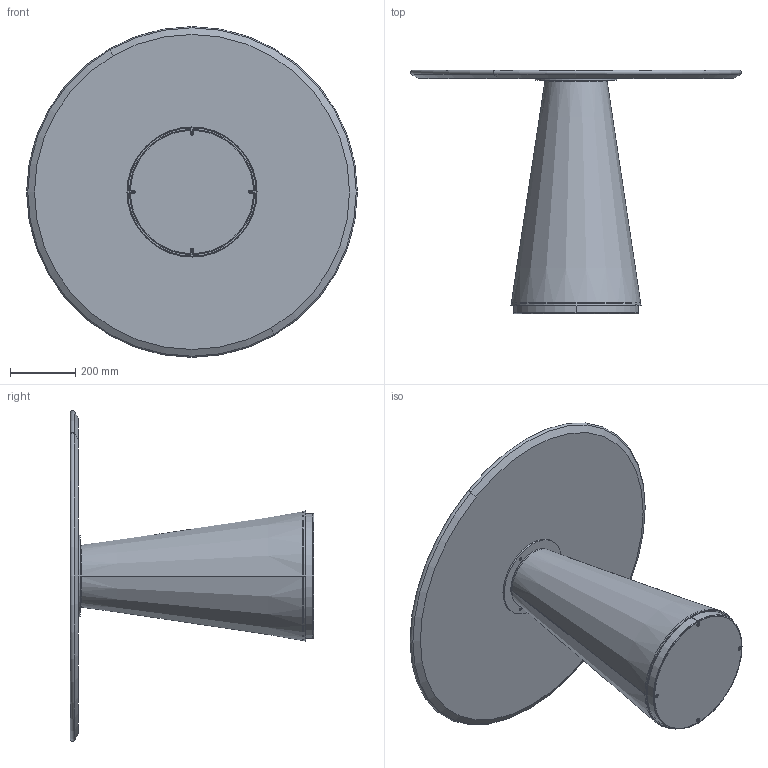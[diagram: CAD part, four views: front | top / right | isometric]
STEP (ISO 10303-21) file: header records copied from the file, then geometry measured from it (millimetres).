
FILE_DESCRIPTION (( 'STEP AP203' ), '1' );
FILE_NAME ('TE30B.STEP', '2024-08-08T07:48:49', ( '' ), ( '' ), 'SwSTEP 2.0', 'SolidWorks 2022', '' );
FILE_SCHEMA (( 'CONFIG_CONTROL_DESIGN' ));
Length unit declared in the file: millimetre
Products named in the file (10): Assieme BASE TED; TED000000BAS_01-00-TED PIASTRA; TE30B; M6xXXmm_HEX_M6x20mm HEX; TED000000PIA-00-TED PIASTRA SOPRA; BOMB0001-00-PIANO LEGNO CON INCASSO Ø100_MDF per Ø100cm; K1XCMXX-00-Piani Rotondi in ceramica_D.1000 SOLO CERAMICA SP.6mm; TED000000TCONO-00-TED CONO; M6xXXmm_HEX_M6x40mm HEX; Assieme piani incassatti ceramica_Ø100cm
Assembly tree (15 placements, depth 3):
  TE30B
    Assieme piani incassatti ceramica_Ø100cm
      BOMB0001-00-PIANO LEGNO CON INCASSO Ø100_MDF per Ø100cm
      K1XCMXX-00-Piani Rotondi in ceramica_D.1000 SOLO CERAMICA SP.6mm
    Assieme BASE TED
      TED000000BAS_01-00-TED PIASTRA
      TED000000PIA-00-TED PIASTRA SOPRA
      TED000000TCONO-00-TED CONO
      M6xXXmm_HEX_M6x20mm HEX  x4
      M6xXXmm_HEX_M6x40mm HEX  x4
Bounding box: 1017 x 748.5 x 1017 mm (x, y, z)
Volume: 21109557.3 mm3; surface area: 5074145.3 mm2
Topology: 15 solids, 15 shells, 373 faces, 785 edges, 436 vertices
Faces by surface type: plane 178, cylinder 111, cone 62, torus 22
Entity records: 6045 total; most frequent: DIRECTION 969, CARTESIAN_POINT 788, ORIENTED_EDGE 746, AXIS2_PLACEMENT_3D 407, EDGE_CURVE 373, VERTEX_POINT 226, EDGE_LOOP 223, CIRCLE 218
